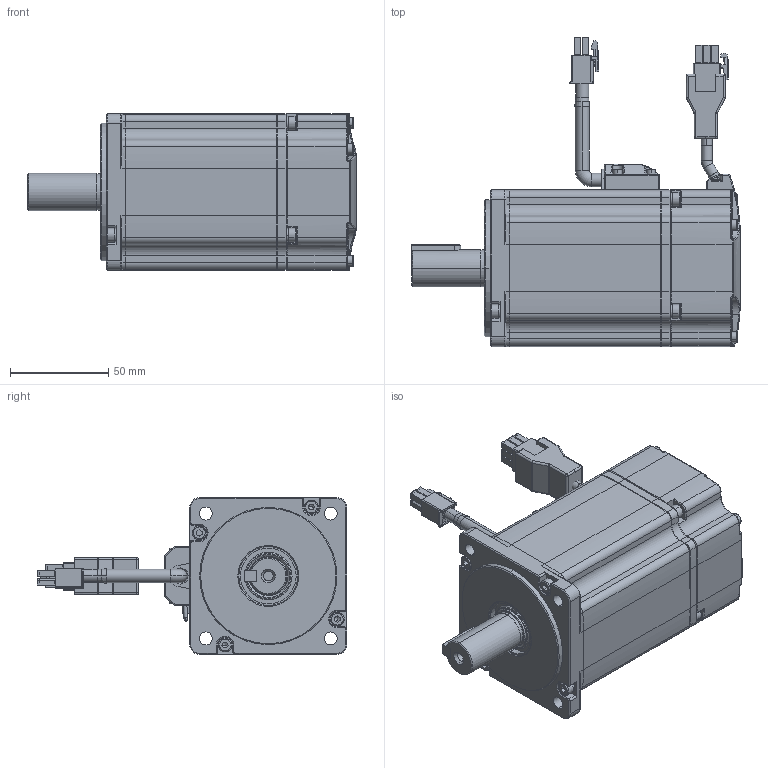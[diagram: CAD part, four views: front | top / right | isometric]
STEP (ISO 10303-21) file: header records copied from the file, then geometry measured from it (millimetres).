
FILE_DESCRIPTION (( 'STEP AP203' ), '1' );
FILE_NAME ('EM3A08A-100-A2-S（永磁交流伺服电机）.STEP', '2018-06-12T07:07:13', ( '' ), ( '' ), 'SwSTEP 2.0', 'SolidWorks 2016', '' );
FILE_SCHEMA (( 'CONFIG_CONTROL_DESIGN' ));
Length unit declared in the file: millimetre
Products named in the file (1): EM3A08A-100-A2-S（永磁交流伺服电机）
Bounding box: 167.5 x 157.81 x 80 mm (x, y, z)
Surface area: 79172.3 mm2 (no closed solid volume)
Topology: 0 solids, 62 shells, 1272 faces, 3677 edges, 2369 vertices
Faces by surface type: plane 473, cylinder 439, cone 127, torus 124, bspline 71, sphere 38
Entity records: 43027 total; most frequent: CARTESIAN_POINT 10426, DIRECTION 7014, ORIENTED_EDGE 6195, EDGE_CURVE 3635, AXIS2_PLACEMENT_3D 2570, VERTEX_POINT 2369, VECTOR 1874, LINE 1874
